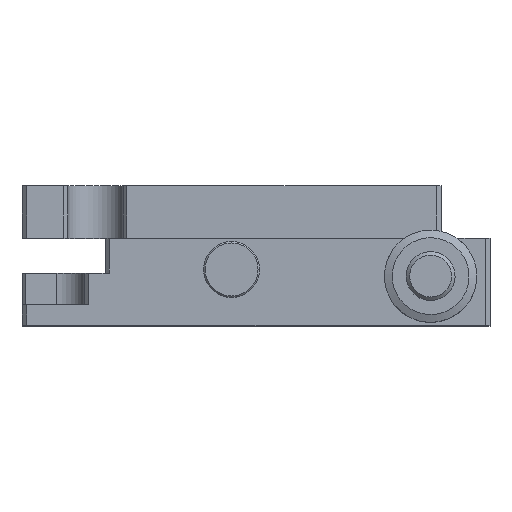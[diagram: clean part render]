
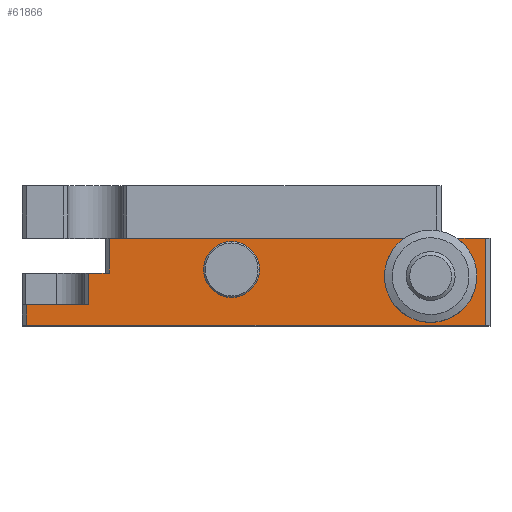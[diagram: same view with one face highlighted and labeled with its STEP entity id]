
A CAD part, top view. The second image highlights one B-rep face of the part: STEP entity #61866.
In plain terms, the highlighted planar face has unit normal (0, 0, 1).
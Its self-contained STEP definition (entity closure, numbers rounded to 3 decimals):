
#674 = DIRECTION ( 'NONE',  ( 0., 1., 0. ) ) ;
#1282 = FACE_OUTER_BOUND ( 'NONE', #21497, .T. ) ;
#1755 = DIRECTION ( 'NONE',  ( -1., 0., 0. ) ) ;
#2153 = VERTEX_POINT ( 'NONE', #41354 ) ;
#3615 = AXIS2_PLACEMENT_3D ( 'NONE', #63978, #50203, #49879 ) ;
#4764 = EDGE_CURVE ( 'NONE', #23171, #2153, #56058, .T. ) ;
#6350 = AXIS2_PLACEMENT_3D ( 'NONE', #36365, #26220, #36047 ) ;
#6415 = CIRCLE ( 'NONE', #28379, 5.3 ) ;
#6589 = VECTOR ( 'NONE', #28612, 1000. ) ;
#6738 = EDGE_CURVE ( 'NONE', #10684, #18958, #8911, .T. ) ;
#8045 = VERTEX_POINT ( 'NONE', #62436 ) ;
#8911 = LINE ( 'NONE', #48565, #6589 ) ;
#9451 = ORIENTED_EDGE ( 'NONE', *, *, #27658, .T. ) ;
#10153 = VERTEX_POINT ( 'NONE', #19803 ) ;
#10625 = CARTESIAN_POINT ( 'NONE',  ( -29.29, -0.5, 30. ) ) ;
#10684 = VERTEX_POINT ( 'NONE', #33100 ) ;
#12262 = LINE ( 'NONE', #37191, #23139 ) ;
#12642 = CARTESIAN_POINT ( 'NONE',  ( 28.5, 3.5, 30. ) ) ;
#13706 = LINE ( 'NONE', #38955, #16596 ) ;
#14179 = LINE ( 'NONE', #44654, #51440 ) ;
#14966 = DIRECTION ( 'NONE',  ( -1., 0., 0. ) ) ;
#15144 = CARTESIAN_POINT ( 'NONE',  ( -29.29, 9., 30. ) ) ;
#15277 = ORIENTED_EDGE ( 'NONE', *, *, #63967, .F. ) ;
#16055 = PLANE ( 'NONE',  #6350 ) ;
#16596 = VECTOR ( 'NONE', #18313, 1000. ) ;
#17284 = ORIENTED_EDGE ( 'NONE', *, *, #17559, .F. ) ;
#17559 = EDGE_CURVE ( 'NONE', #10153, #19216, #25615, .T. ) ;
#18296 = VERTEX_POINT ( 'NONE', #53313 ) ;
#18313 = DIRECTION ( 'NONE',  ( -1., 0., 0. ) ) ;
#18958 = VERTEX_POINT ( 'NONE', #52098 ) ;
#19113 = ORIENTED_EDGE ( 'NONE', *, *, #63640, .F. ) ;
#19216 = VERTEX_POINT ( 'NONE', #44687 ) ;
#19803 = CARTESIAN_POINT ( 'NONE',  ( -17.5, 4., 30. ) ) ;
#20692 = EDGE_CURVE ( 'NONE', #18296, #18296, #40296, .T. ) ;
#21497 = EDGE_LOOP ( 'NONE', ( #52682, #15277, #43265, #40918, #33066, #64410, #17284, #9451 ) ) ;
#22002 = VERTEX_POINT ( 'NONE', #50798 ) ;
#23139 = VECTOR ( 'NONE', #1755, 1000. ) ;
#23171 = VERTEX_POINT ( 'NONE', #24841 ) ;
#24841 = CARTESIAN_POINT ( 'NONE',  ( -29.29, -0.5, 30. ) ) ;
#25615 = LINE ( 'NONE', #34458, #61385 ) ;
#26220 = DIRECTION ( 'NONE',  ( 0., 0., 1. ) ) ;
#27658 = EDGE_CURVE ( 'NONE', #10153, #39831, #45431, .T. ) ;
#28020 = VECTOR ( 'NONE', #14966, 1000. ) ;
#28379 = AXIS2_PLACEMENT_3D ( 'NONE', #12642, #43111, #37569 ) ;
#28612 = DIRECTION ( 'NONE',  ( 0., -1., 0. ) ) ;
#30571 = DIRECTION ( 'NONE',  ( 0., -1., 0. ) ) ;
#33066 = ORIENTED_EDGE ( 'NONE', *, *, #6738, .F. ) ;
#33100 = CARTESIAN_POINT ( 'NONE',  ( 36.29, 9., 30. ) ) ;
#34458 = CARTESIAN_POINT ( 'NONE',  ( -17.5, 4., 30. ) ) ;
#36047 = DIRECTION ( 'NONE',  ( -1., 0., 0. ) ) ;
#36194 = DIRECTION ( 'NONE',  ( 1., 0., 0. ) ) ;
#36365 = CARTESIAN_POINT ( 'NONE',  ( 36.29, 9., 30. ) ) ;
#37191 = CARTESIAN_POINT ( 'NONE',  ( 36.29, 9., 30. ) ) ;
#37569 = DIRECTION ( 'NONE',  ( -1., 0., 0. ) ) ;
#38955 = CARTESIAN_POINT ( 'NONE',  ( 36.29, -3.5, 30. ) ) ;
#39547 = CARTESIAN_POINT ( 'NONE',  ( -17.5, 4., 30. ) ) ;
#39751 = DIRECTION ( 'NONE',  ( 0., 1., 0. ) ) ;
#39831 = VERTEX_POINT ( 'NONE', #40694 ) ;
#40296 = CIRCLE ( 'NONE', #3615, 1.25 ) ;
#40694 = CARTESIAN_POINT ( 'NONE',  ( -20.5, 4., 30. ) ) ;
#40918 = ORIENTED_EDGE ( 'NONE', *, *, #54531, .F. ) ;
#40958 = FACE_BOUND ( 'NONE', #47902, .T. ) ;
#41180 = EDGE_CURVE ( 'NONE', #10684, #19216, #12262, .T. ) ;
#41354 = CARTESIAN_POINT ( 'NONE',  ( -29.29, -3.5, 30. ) ) ;
#43111 = DIRECTION ( 'NONE',  ( 0., 0., 1. ) ) ;
#43265 = ORIENTED_EDGE ( 'NONE', *, *, #4764, .T. ) ;
#44654 = CARTESIAN_POINT ( 'NONE',  ( -20.5, -1., 30. ) ) ;
#44687 = CARTESIAN_POINT ( 'NONE',  ( -17.5, 9., 30. ) ) ;
#45431 = LINE ( 'NONE', #39547, #28020 ) ;
#47284 = EDGE_LOOP ( 'NONE', ( #19113 ) ) ;
#47902 = EDGE_LOOP ( 'NONE', ( #53908 ) ) ;
#48565 = CARTESIAN_POINT ( 'NONE',  ( 36.29, 9., 30. ) ) ;
#49482 = VECTOR ( 'NONE', #30571, 1000. ) ;
#49879 = DIRECTION ( 'NONE',  ( -1., 0., 0. ) ) ;
#50203 = DIRECTION ( 'NONE',  ( 0., 0., 1. ) ) ;
#50482 = EDGE_CURVE ( 'NONE', #22002, #39831, #14179, .T. ) ;
#50798 = CARTESIAN_POINT ( 'NONE',  ( -20.5, -0.5, 30. ) ) ;
#51440 = VECTOR ( 'NONE', #39751, 1000. ) ;
#52098 = CARTESIAN_POINT ( 'NONE',  ( 36.29, -3.5, 30. ) ) ;
#52682 = ORIENTED_EDGE ( 'NONE', *, *, #50482, .F. ) ;
#53313 = CARTESIAN_POINT ( 'NONE',  ( -1.25, 4.5, 30. ) ) ;
#53908 = ORIENTED_EDGE ( 'NONE', *, *, #20692, .F. ) ;
#54531 = EDGE_CURVE ( 'NONE', #18958, #2153, #13706, .T. ) ;
#55498 = LINE ( 'NONE', #10625, #59828 ) ;
#56058 = LINE ( 'NONE', #15144, #49482 ) ;
#59828 = VECTOR ( 'NONE', #36194, 1000. ) ;
#60913 = FACE_BOUND ( 'NONE', #47284, .T. ) ;
#61385 = VECTOR ( 'NONE', #674, 1000. ) ;
#61866 = ADVANCED_FACE ( 'NONE', ( #1282, #40958, #60913 ), #16055, .T. ) ;
#62436 = CARTESIAN_POINT ( 'NONE',  ( 23.2, 3.5, 30. ) ) ;
#63640 = EDGE_CURVE ( 'NONE', #8045, #8045, #6415, .T. ) ;
#63967 = EDGE_CURVE ( 'NONE', #23171, #22002, #55498, .T. ) ;
#63978 = CARTESIAN_POINT ( 'NONE',  ( 0., 4.5, 30. ) ) ;
#64410 = ORIENTED_EDGE ( 'NONE', *, *, #41180, .T. ) ;
